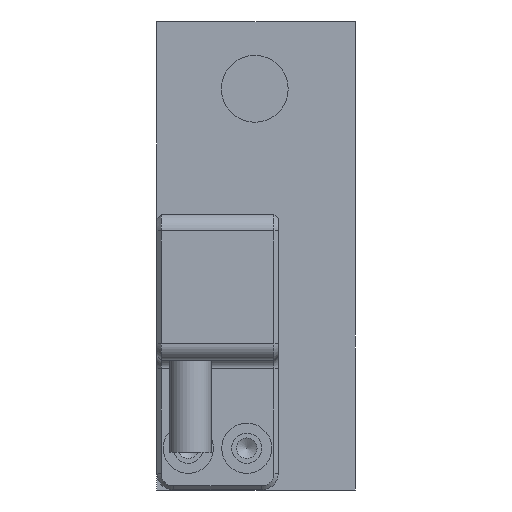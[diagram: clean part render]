
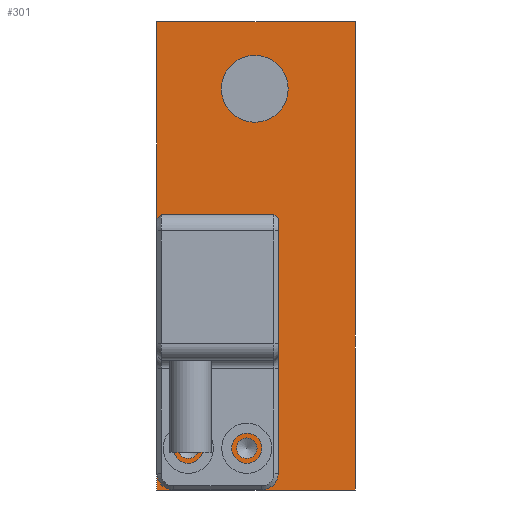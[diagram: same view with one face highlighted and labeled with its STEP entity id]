
A CAD part, left-side view. The second image highlights one B-rep face of the part: STEP entity #301.
In plain terms, the highlighted planar face has unit normal (-1, 0, 0).
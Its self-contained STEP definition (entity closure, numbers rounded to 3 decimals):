
#301 = ADVANCED_FACE( '', ( #641, #642, #643, #644 ), #645, .T. );
#641 = FACE_BOUND( '', #985, .T. );
#642 = FACE_BOUND( '', #986, .T. );
#643 = FACE_BOUND( '', #987, .T. );
#644 = FACE_OUTER_BOUND( '', #988, .T. );
#645 = PLANE( '', #989 );
#985 = EDGE_LOOP( '', ( #1583 ) );
#986 = EDGE_LOOP( '', ( #1584 ) );
#987 = EDGE_LOOP( '', ( #1585 ) );
#988 = EDGE_LOOP( '', ( #1586, #1587, #1588, #1589 ) );
#989 = AXIS2_PLACEMENT_3D( '', #1590, #1591, #1592 );
#1583 = ORIENTED_EDGE( '', *, *, #1888, .T. );
#1584 = ORIENTED_EDGE( '', *, *, #1890, .T. );
#1585 = ORIENTED_EDGE( '', *, *, #1835, .F. );
#1586 = ORIENTED_EDGE( '', *, *, #1909, .F. );
#1587 = ORIENTED_EDGE( '', *, *, #1926, .F. );
#1588 = ORIENTED_EDGE( '', *, *, #1883, .T. );
#1589 = ORIENTED_EDGE( '', *, *, #1859, .T. );
#1590 = CARTESIAN_POINT( '', ( -59., 23.7, 28. ) );
#1591 = DIRECTION( '', ( -1., 0., 0. ) );
#1592 = DIRECTION( '', ( 0., 0., 1. ) );
#1835 = EDGE_CURVE( '', #2153, #2153, #2154, .T. );
#1859 = EDGE_CURVE( '', #2182, #2180, #2183, .T. );
#1883 = EDGE_CURVE( '', #2208, #2182, #2209, .T. );
#1888 = EDGE_CURVE( '', #2215, #2215, #2216, .T. );
#1890 = EDGE_CURVE( '', #2218, #2218, #2219, .T. );
#1909 = EDGE_CURVE( '', #2244, #2180, #2245, .T. );
#1926 = EDGE_CURVE( '', #2208, #2244, #2260, .T. );
#2153 = VERTEX_POINT( '', #2536 );
#2154 = CIRCLE( '', #2537, 4. );
#2180 = VERTEX_POINT( '', #2568 );
#2182 = VERTEX_POINT( '', #2571 );
#2183 = LINE( '', #2572, #2573 );
#2208 = VERTEX_POINT( '', #2603 );
#2209 = LINE( '', #2604, #2605 );
#2215 = VERTEX_POINT( '', #2612 );
#2216 = CIRCLE( '', #2613, 1.23 );
#2218 = VERTEX_POINT( '', #2615 );
#2219 = CIRCLE( '', #2616, 1.23 );
#2244 = VERTEX_POINT( '', #2643 );
#2245 = LINE( '', #2644, #2645 );
#2260 = LINE( '', #2662, #2663 );
#2536 = CARTESIAN_POINT( '', ( -59., 12., 24. ) );
#2537 = AXIS2_PLACEMENT_3D( '', #2869, #2870, #2871 );
#2568 = CARTESIAN_POINT( '', ( -59., 0., -28. ) );
#2571 = CARTESIAN_POINT( '', ( -59., 23.7, -28. ) );
#2572 = CARTESIAN_POINT( '', ( -59., 23.7, -28. ) );
#2573 = VECTOR( '', #2896, 1000. );
#2603 = CARTESIAN_POINT( '', ( -59., 23.7, 28. ) );
#2604 = CARTESIAN_POINT( '', ( -59., 23.7, 28. ) );
#2605 = VECTOR( '', #2917, 1000. );
#2612 = CARTESIAN_POINT( '', ( -59., 19.95, -21.77 ) );
#2613 = AXIS2_PLACEMENT_3D( '', #2922, #2923, #2924 );
#2615 = CARTESIAN_POINT( '', ( -59., 12.95, -21.77 ) );
#2616 = AXIS2_PLACEMENT_3D( '', #2925, #2926, #2927 );
#2643 = CARTESIAN_POINT( '', ( -59., 0., 28. ) );
#2644 = CARTESIAN_POINT( '', ( -59., 0., 28. ) );
#2645 = VECTOR( '', #2954, 1000. );
#2662 = CARTESIAN_POINT( '', ( -59., 23.7, 28. ) );
#2663 = VECTOR( '', #2960, 1000. );
#2869 = CARTESIAN_POINT( '', ( -59., 12., 20. ) );
#2870 = DIRECTION( '', ( -1., 0., 0. ) );
#2871 = DIRECTION( '', ( 0., 0., 1. ) );
#2896 = DIRECTION( '', ( 0., -1., 0. ) );
#2917 = DIRECTION( '', ( 0., 0., -1. ) );
#2922 = CARTESIAN_POINT( '', ( -59., 19.95, -23. ) );
#2923 = DIRECTION( '', ( 1., 0., 0. ) );
#2924 = DIRECTION( '', ( 0., 0., 1. ) );
#2925 = CARTESIAN_POINT( '', ( -59., 12.95, -23. ) );
#2926 = DIRECTION( '', ( 1., 0., 0. ) );
#2927 = DIRECTION( '', ( 0., 0., 1. ) );
#2954 = DIRECTION( '', ( 0., 0., -1. ) );
#2960 = DIRECTION( '', ( 0., -1., 0. ) );
